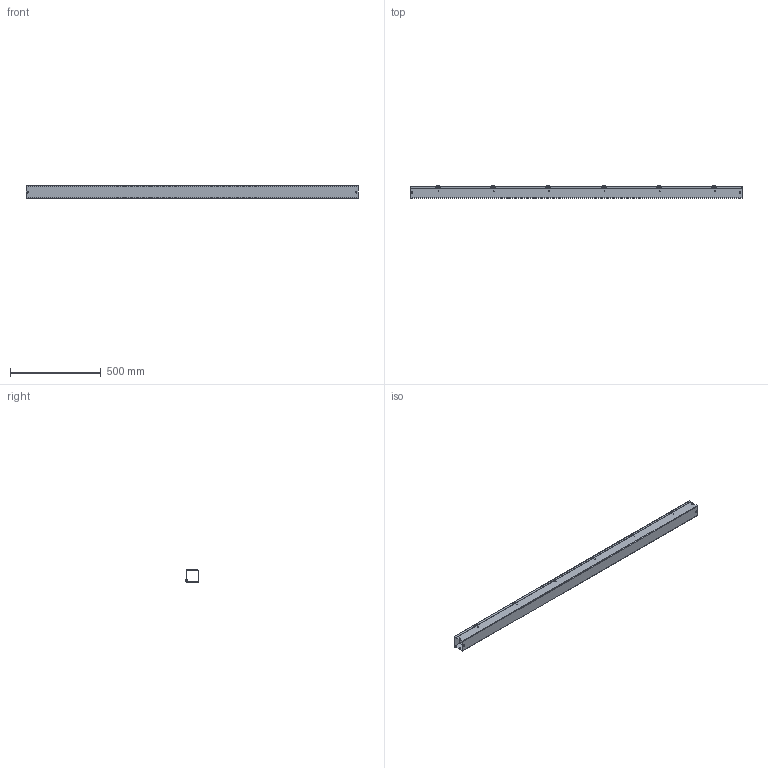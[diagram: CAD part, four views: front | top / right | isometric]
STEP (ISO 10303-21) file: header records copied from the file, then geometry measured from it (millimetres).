
FILE_DESCRIPTION (( 'STEP AP203' ), '1' );
FILE_NAME ('F22G72.STEP', '2022-10-27T21:37:08', ( '' ), ( '' ), 'SwSTEP 2.0', 'SolidWorks 2020', '' );
FILE_SCHEMA (( 'CONFIG_CONTROL_DESIGN' ));
Length unit declared in the file: inch
Products named in the file (3): 89222798; 89222788; F22G72
Assembly tree (2 placements, depth 2):
  F22G72
    89222788
    89222798
Bounding box: 1828.8 x 69.01 x 75.97 mm (x, y, z)
Volume: 775412.9 mm3; surface area: 1122946.6 mm2
Topology: 2 solids, 2 shells, 296 faces, 748 edges, 474 vertices
Faces by surface type: plane 154, cylinder 94, torus 24, cone 24
Entity records: 9361 total; most frequent: DIRECTION 1648, CARTESIAN_POINT 1523, ORIENTED_EDGE 1496, EDGE_CURVE 748, AXIS2_PLACEMENT_3D 599, VERTEX_POINT 474, LINE 450, VECTOR 450
